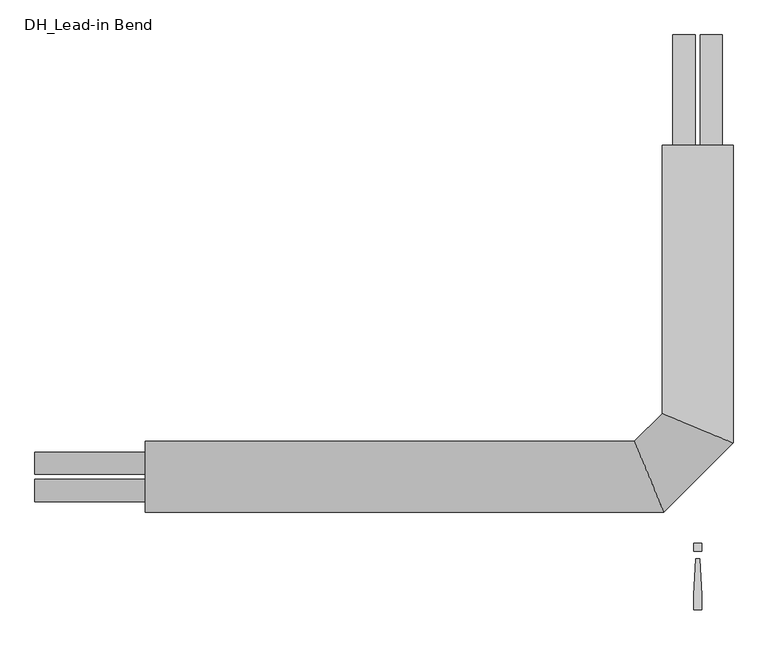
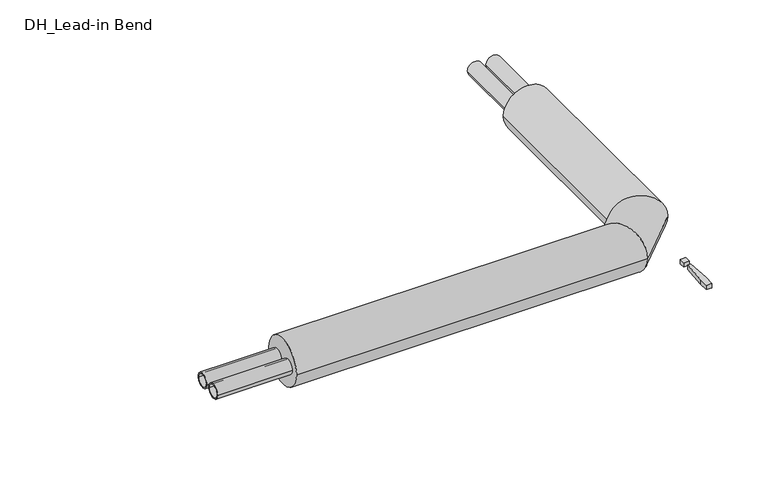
"""IFC4 building model written with IfcOpenShell, lengths in millimetres: pipe fitting geometry, DH_Lead-in Bend : INSULPEX DUO 11 Heating Vertical."""

from ifc_helpers import new_model, si_unit, point, frame, frame_2d, origin, origin_with_axes, place, context, project, spatial, polyline, circle_curve, ellipse_curve, trimmed, segment, composite_curve, outline, extrude, source, transform, mapped, element, save
from ifc_brep_helpers import plane_surface, cylinder_surface, advanced_brep


def dh_lead_in_bend_30da0b8d(model_context):
    return source(origin(), model_context, "Body", "SolidModel", [
        extrude(outline(composite_curve([segment(trimmed(circle_curve(frame_2d((-31.0, 0.0)), 25.0), [point((-6.0, 0.0))], [point((-56.0, 0.0))], False, "CARTESIAN"), True, "CONTINUOUS"), segment(trimmed(circle_curve(frame_2d((-31.0, 0.0)), 25.0), [point((-56.0, 0.0))], [point((-6.0, 0.0))], False, "CARTESIAN"), True, "CONTINUOUS")], self_intersect=False), holes=[composite_curve([segment(trimmed(circle_curve(frame_2d((-31.0, 0.0)), 20.4), [point((-10.6, 0.0))], [point((-51.4, 0.0))], True, "CARTESIAN"), True, "CONTINUOUS"), segment(trimmed(circle_curve(frame_2d((-31.0, 0.0)), 20.4), [point((-51.4, 0.0))], [point((-10.6, 0.0))], True, "CARTESIAN"), True, "CONTINUOUS")], self_intersect=False)]), frame((-1500.0, 0.0, 0.0), z_axis=(1.0, 0.0, 0.0), x_axis=(0.0, 1.0, 0.0)), (0.0, 0.0, 1.0), 250.0),
        advanced_brep(
        [(-1250.0, -80.0, 0.0), (-1250.0, 80.0, 0.0), (-76.862915, -80.0, 0.0), (-143.137085, 80.0, 0.0), (80.0, 750.0, 0.0), (-80.0, 750.0, 0.0), (-80.0, 143.137085, 0.0), (80.0, 76.862915, 0.0)],
        [
            (0, 1, circle_curve(frame((-1250.0, 0.0, 0.0), z_axis=(-1.0, 0.0, 0.0), x_axis=(0.0, 1.0, 0.0)), 80.0)),
            (1, 0, circle_curve(frame((-1250.0, 0.0, 0.0), z_axis=(-1.0, 0.0, 0.0), x_axis=(0.0, 1.0, 0.0)), 80.0)),
            (0, 2),
            (2, 3, ellipse_curve(frame((-110.0, 0.0, 0.0), z_axis=(-0.9238795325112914, -0.3826834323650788, 0.0), x_axis=(-0.38268343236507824, 0.9238795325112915, 0.0)), 86.591376, 80.0)),
            (3, 1),
            (3, 2, ellipse_curve(frame((-110.0, 0.0, 0.0), z_axis=(-0.9238795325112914, -0.3826834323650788, 0.0), x_axis=(-0.38268343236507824, 0.9238795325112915, 0.0)), 86.591376, 80.0)),
            (4, 5, circle_curve(frame((0.0, 750.0, 0.0), z_axis=(0.0, 1.0, 0.0), x_axis=(-1.0, 0.0, 0.0)), 80.0)),
            (5, 4, circle_curve(frame((0.0, 750.0, 0.0), z_axis=(0.0, 1.0, 0.0), x_axis=(-1.0, 0.0, 0.0)), 80.0)),
            (6, 7, ellipse_curve(frame((0.0, 110.0, 0.0), z_axis=(0.38268343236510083, 0.9238795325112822, 0.0), x_axis=(0.9238795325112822, -0.3826834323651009, 0.0)), 86.591376, 80.0)),
            (7, 4),
            (5, 6),
            (7, 6, ellipse_curve(frame((0.0, 110.0, 0.0), z_axis=(0.38268343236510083, 0.9238795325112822, 0.0), x_axis=(0.9238795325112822, -0.3826834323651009, 0.0)), 86.591376, 80.0)),
            (2, 7),
            (6, 3),
        ],
        [
            plane_surface(frame((-1250.0, 0.0, 0.0), z_axis=(-1.0, 0.0, 0.0), x_axis=(0.0, 0.0, 1.0))),
            cylinder_surface(frame((-1250.0, 0.0, 0.0), z_axis=(-1.0, 0.0, 0.0), x_axis=(0.0, 1.0, 0.0)), 80.0),
            plane_surface(frame((0.0, 750.0, 0.0), z_axis=(0.0, 1.0, 0.0), x_axis=(0.0, 0.0, 1.0))),
            cylinder_surface(frame((0.0, 110.0, 0.0), z_axis=(0.0, -1.0, 0.0), x_axis=(-1.0, 0.0, 0.0)), 80.0),
            cylinder_surface(frame((-110.0, 0.0, 0.0), z_axis=(-0.7071067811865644, -0.7071067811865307, 0.0), x_axis=(-0.7071067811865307, 0.7071067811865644, 0.0)), 80.0),
        ],
        [
            (0, [[1, 2]]),
            (1, [[-1, 3, 4, 5]]),
            (1, [[-2, -5, 6, -3]]),
            (2, [[7, 8]]),
            (3, [[9, 10, -8, 11]]),
            (3, [[12, -11, -7, -10]]),
            (4, [[-4, 13, -9, 14]]),
            (4, [[-6, -14, -12, -13]]),
        ],
    ),
        extrude(outline(composite_curve([segment(trimmed(circle_curve(frame_2d((0.0, -31.0)), 25.0), [point((0.0, -6.0))], [point((0.0, -56.0))], False, "CARTESIAN"), True, "CONTINUOUS"), segment(trimmed(circle_curve(frame_2d((0.0, -31.0)), 25.0), [point((0.0, -56.0))], [point((0.0, -6.0))], False, "CARTESIAN"), True, "CONTINUOUS")], self_intersect=False), holes=[composite_curve([segment(trimmed(circle_curve(frame_2d((0.0, -31.0)), 20.4), [point((0.0, -10.6))], [point((0.0, -51.4))], True, "CARTESIAN"), True, "CONTINUOUS"), segment(trimmed(circle_curve(frame_2d((0.0, -31.0)), 20.4), [point((0.0, -51.4))], [point((0.0, -10.6))], True, "CARTESIAN"), True, "CONTINUOUS")], self_intersect=False)]), frame((0.0, 750.0, 0.0), z_axis=(0.0, 1.0, 0.0), x_axis=(0.0, 0.0, 1.0)), (0.0, 0.0, 1.0), 250.0),
        extrude(outline(composite_curve([segment(trimmed(circle_curve(frame_2d((31.0, 0.0)), 25.0), [point((6.0, 0.0))], [point((56.0, 0.0))], False, "CARTESIAN"), True, "CONTINUOUS"), segment(trimmed(circle_curve(frame_2d((31.0, 0.0)), 25.0), [point((56.0, 0.0))], [point((6.0, 0.0))], False, "CARTESIAN"), True, "CONTINUOUS")], self_intersect=False), holes=[composite_curve([segment(trimmed(circle_curve(frame_2d((31.0, 0.0)), 20.4), [point((10.6, 0.0))], [point((51.4, 0.0))], True, "CARTESIAN"), True, "CONTINUOUS"), segment(trimmed(circle_curve(frame_2d((31.0, 0.0)), 20.4), [point((51.4, 0.0))], [point((10.6, 0.0))], True, "CARTESIAN"), True, "CONTINUOUS")], self_intersect=False)]), frame((-1500.0, 0.0, 0.0), z_axis=(1.0, 0.0, 0.0), x_axis=(0.0, 1.0, 0.0)), (0.0, 0.0, 1.0), 250.0),
        extrude(outline(composite_curve([segment(trimmed(circle_curve(frame_2d((0.0, 31.0)), 25.0), [point((0.0, 6.0))], [point((0.0, 56.0))], False, "CARTESIAN"), True, "CONTINUOUS"), segment(trimmed(circle_curve(frame_2d((0.0, 31.0)), 25.0), [point((0.0, 56.0))], [point((0.0, 6.0))], False, "CARTESIAN"), True, "CONTINUOUS")], self_intersect=False), holes=[composite_curve([segment(trimmed(circle_curve(frame_2d((0.0, 31.0)), 20.4), [point((0.0, 10.6))], [point((0.0, 51.4))], True, "CARTESIAN"), True, "CONTINUOUS"), segment(trimmed(circle_curve(frame_2d((0.0, 31.0)), 20.4), [point((0.0, 51.4))], [point((0.0, 10.6))], True, "CARTESIAN"), True, "CONTINUOUS")], self_intersect=False)]), frame((0.0, 750.0, 0.0), z_axis=(0.0, 1.0, 0.0), x_axis=(0.0, 0.0, 1.0)), (0.0, 0.0, 1.0), 250.0),
        extrude(outline(polyline([(4.7088895, -185.3166715), (9.4177791, -266.6553807), (9.4177791, -300.6844652), (-9.4177791, -300.6844652), (-9.4177791, -266.6553807), (-4.7088895, -185.3166715), (4.7088895, -185.3166715)])), origin_with_axes(), (0.0, 0.0, 1.0), 15.0),
        extrude(outline(polyline([(9.4177791, -150.0), (9.4177791, -168.8355582), (-9.4177791, -168.8355582), (-9.4177791, -150.0), (9.4177791, -150.0)])), origin_with_axes(), (0.0, 0.0, 1.0), 15.0),
    ])


if __name__ == "__main__":
    model = new_model("IFC4")
    model_context = context("Model", 3, world=origin())
    ifc_project = project(units=[si_unit("LENGTHUNIT", "METRE", prefix="MILLI")], contexts=[model_context])
    site = spatial("IfcSite", under=ifc_project)
    building = spatial("IfcBuilding", under=site)
    placement = place(None, origin())
    dh_lead_in_bend_shape = dh_lead_in_bend_30da0b8d(model_context)
    element("IfcPipeFitting", 1, ObjectType="DH_Lead-in Bend : INSULPEX DUO 11 Heating Vertical", at=placement, inside=building, context=model_context, shape_type="MappedRepresentation", body=[
        mapped(dh_lead_in_bend_shape, transform((0.0, 0.0, 0.0), x_axis=(1.0, 0.0, 0.0), y_axis=(0.0, 1.0, 0.0), z_axis=(0.0, 0.0, 1.0))),
    ])
    save(model, "model.ifc")
